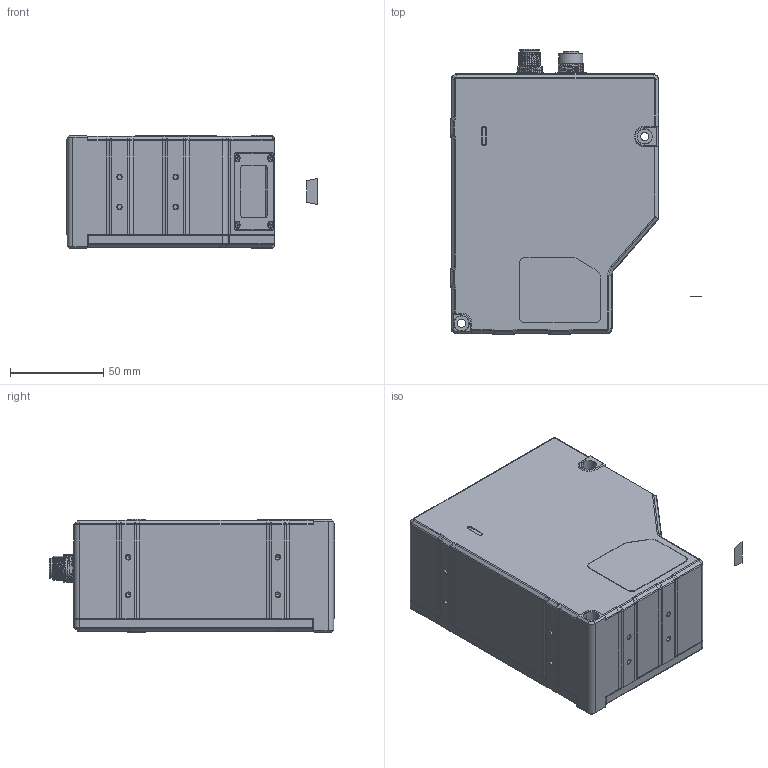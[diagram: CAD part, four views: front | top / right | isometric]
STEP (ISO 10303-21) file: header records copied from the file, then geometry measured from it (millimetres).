
FILE_DESCRIPTION((''),'2;1');
FILE_NAME('00-DE-19-006839_ASM_333_ASM','2023-07-27T19:28:28',('lizechang'),(''),'CREO PARAMETRIC BY PTC INC, 2020044','CREO PARAMETRIC BY PTC INC, 2020044','');
FILE_SCHEMA(('CONFIG_CONTROL_DESIGN'));
Products named in the file (43): DE-14-021867_193; DE-14-021873_34; DA-11-085072_22; DA-11-085073_ASM_40_ASM; DA-11-085074_22; SC-KM2X4-H-B_4; DA-11-085077_6; DA-11-085078_7_1; DA-11-085078_7_2; DA-11-085078_7_3; DA-11-085078_7_4; DA-11-085078_7_5; DA-11-085078_7_6; DA-11-085078_7_7; DA-11-085078_7_8; DA-11-085078_7_9; DA-11-085078_7_10; DA-11-085078_7_11; DA-11-085078_7_12; DA-11-085078_7_13; DA-11-085078_7_14; DA-11-085078_7_15; DA-11-085078_7_16; DA-11-085078_7_17; DA-11-085078_7_18; DA-11-085078_7_19; DA-11-085078_7_20; DA-11-085078_7_21; DA-11-085078_7_22; DA-11-085078_7_23; DA-11-085078_7_24; DA-11-085078_7_25; DA-11-085078_7_26; DA-11-085078_7_ASM; DA-11-085079_ASM_14_ASM; DA-11-085080_5; DE-14-005311_4; DA-11-085081_ASM_31_ASM; SC-AM2_5X8NL-BNI-SCM435-GB70_1_; DE-14-022617_10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
Assembly tree (49 placements, depth 5):
  00-DE-19-006839_ASM_333_ASM
    DA-11-085081_ASM_31_ASM
      DE-14-021867_193
      DA-11-085073_ASM_40_ASM
        DE-14-021873_34
        DA-11-085072_22
      DA-11-085074_22
      SC-KM2X4-H-B_4  x4
      DA-11-085079_ASM_14_ASM
        DA-11-085077_6
        DA-11-085078_7_ASM
          DA-11-085078_7_1
          DA-11-085078_7_2
          DA-11-085078_7_3
          DA-11-085078_7_4
          DA-11-085078_7_5
          DA-11-085078_7_6
          DA-11-085078_7_7
          DA-11-085078_7_8
          DA-11-085078_7_9
          DA-11-085078_7_10
          DA-11-085078_7_11
          DA-11-085078_7_12
          DA-11-085078_7_13
          DA-11-085078_7_14
          DA-11-085078_7_15
          DA-11-085078_7_16
          DA-11-085078_7_17
          DA-11-085078_7_18
          DA-11-085078_7_19
          DA-11-085078_7_20
          DA-11-085078_7_21
          DA-11-085078_7_22
          DA-11-085078_7_23
          DA-11-085078_7_24
          DA-11-085078_7_25
          DA-11-085078_7_26
      DA-11-085080_5
      DE-14-005311_4
    DA-11-085103_ASM_82_ASM
      SC-AM2_5X8NL-BNI-SCM435-GB70_1_  x5
      DE-14-022617_10
    DE-14-036338_1
Bounding box: 134.5 x 152.7 x 60.5 mm (x, y, z)
Volume: 834297 mm3; surface area: 110103.6 mm2
Topology: 44 solids, 71 shells, 2123 faces, 5816 edges, 3935 vertices
Faces by surface type: cylinder 864, plane 681, cone 311, bspline 118, torus 106, sphere 42, extrusion 1
Entity records: 76633 total; most frequent: CARTESIAN_POINT 25459, DIRECTION 10992, ORIENTED_EDGE 10358, EDGE_CURVE 5197, AXIS2_PLACEMENT_3D 4345, VERTEX_POINT 3459, CIRCLE 2313, VECTOR 2302
